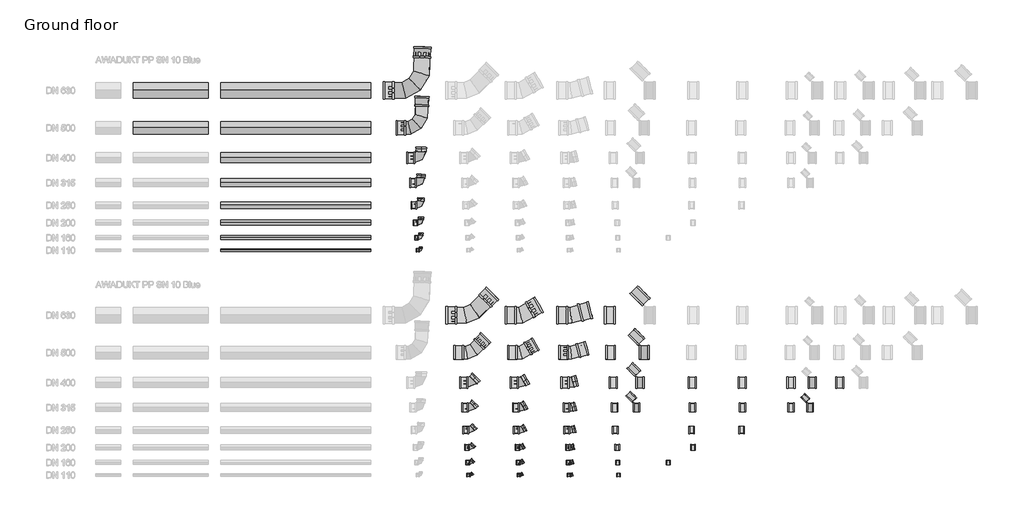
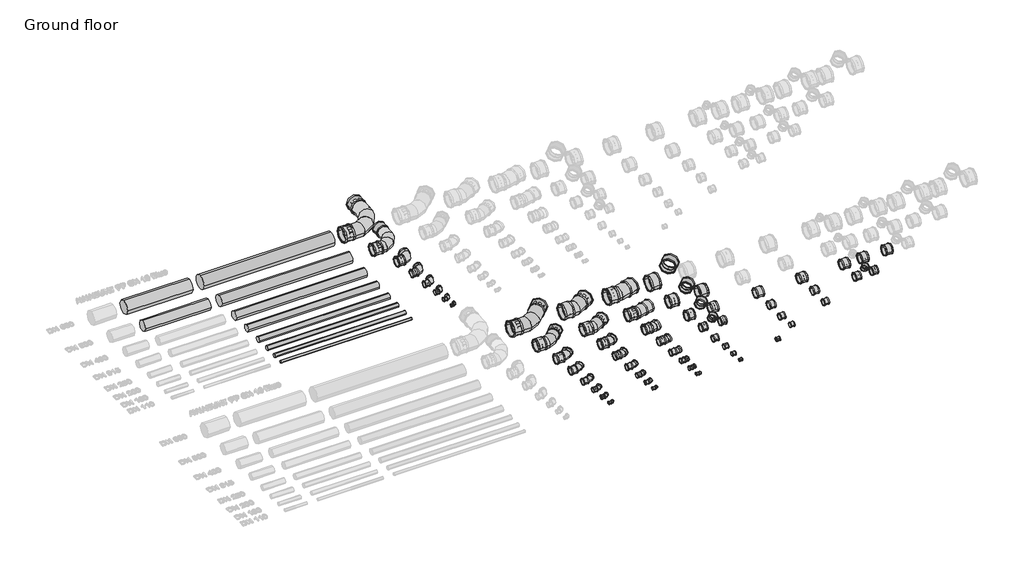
# One storey, part 2 of 14: 101 pipe fittings, 10 pipe segments.
"""IFC4 building model written with IfcOpenShell, lengths in millimetres."""

from ifc_helpers import new_model, si_unit, point, frame, frame_2d, origin, place, context, project, spatial, circle_curve, trimmed, segment, composite_curve, outline, extrude, transform, mapped, element, save
from components import pipe_fitting_e5a81f0f, pipe_fitting_366f8f33, pipe_fitting_0ebad727, pipe_fitting_3dc9645f, pipe_fitting_b5a722ff, pipe_fitting_a818c1c7, pipe_fitting_9bc79c39, pipe_fitting_2c23b5e5, blue_8a6e1d2f, blue_6a90c062, blue_68ca3d6e, blue_9c2ccc73, blue_e60a5e92, blue_be0330f0, blue_8c50e030, blue_66bd3a30, blue_cd4b49a2, blue_58710f0b, blue_3e8714aa, blue_1fd363ef, blue_119fea42, blue_49925300, blue_168d1bee, blue_045a93d3, blue_ad261573, blue_5f6e9122, blue_0398ec3c, blue_563d0c32, blue_fd0dfc69, blue_0a20ea5d, blue_b37b0867, blue_6a097fc3, blue_a2c14ece, blue_55e6ac91, blue_4c46b765, blue_4c692024, blue_db9835d6, blue_7109e013, orange_dd9ac047, orange_127dd680

model = new_model("IFC4")

# Units and contexts
model_context = context("Model", 3, world=origin())
ifc_project = project(units=[si_unit("LENGTHUNIT", "METRE", prefix="MILLI")], contexts=[model_context])

# Site, building, storey
site = spatial("IfcSite", under=ifc_project)
building = spatial("IfcBuilding", under=site)
storey = spatial("IfcBuildingStorey", under=building, Name="Ground floor", Elevation=0.0)

# Pipe fittings
placement = place(None, origin())
pipe_fitting_shape = pipe_fitting_e5a81f0f(model_context)
element("IfcPipeFitting", 1, ObjectType="AWADUKT PP Union DSM : Orange No PID", at=placement, inside=storey, context=model_context, shape_type="MappedRepresentation", body=[
    mapped(pipe_fitting_shape, transform((30677.0, 11700.0, 0.0), x_axis=(1.0, 0.0, 0.0), y_axis=(0.0, 1.0, 0.0), z_axis=(0.0, 0.0, 1.0))),
])
pipe_fitting_2_shape = pipe_fitting_366f8f33(model_context)
element("IfcPipeFitting", 2, ObjectType="AWADUKT PP Union DSM : Blue No PID", at=placement, inside=storey, context=model_context, shape_type="MappedRepresentation", body=[
    mapped(pipe_fitting_2_shape, transform((33709.9352083, 7109.9352083, 0.0), x_axis=(0.7071067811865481, 0.707106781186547, 0.0), y_axis=(-0.707106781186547, 0.7071067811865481, 0.0), z_axis=(0.0, 0.0, 1.0))),
])
element("IfcPipeFitting", 3, ObjectType="AWADUKT PP Union DSM : Blue No PID", at=placement, inside=storey, context=model_context, shape_type="MappedRepresentation", body=[
    mapped(pipe_fitting_2_shape, transform((32220.0, 6400.0, 0.0), x_axis=(1.0, 0.0, 0.0), y_axis=(0.0, 1.0, 0.0), z_axis=(0.0, 0.0, 1.0))),
])
element("IfcPipeFitting", 4, ObjectType="AWADUKT PP Union DSM : Blue No PID", at=placement, inside=storey, context=model_context, shape_type="MappedRepresentation", body=[
    mapped(pipe_fitting_2_shape, transform((35534.3376741, 6708.5, 0.0), x_axis=(0.8660254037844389, 0.49999999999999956, 0.0), y_axis=(-0.49999999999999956, 0.8660254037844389, 0.0), z_axis=(0.0, 0.0, 1.0))),
])
element("IfcPipeFitting", 5, ObjectType="AWADUKT PP Union DSM : Blue No PID", at=placement, inside=storey, context=model_context, shape_type="MappedRepresentation", body=[
    mapped(pipe_fitting_2_shape, transform((34590.0, 6400.0, 0.0), x_axis=(1.0, 0.0, 0.0), y_axis=(0.0, 1.0, 0.0), z_axis=(0.0, 0.0, 1.0))),
])
element("IfcPipeFitting", 6, ObjectType="AWADUKT PP Union DSM : Blue No PID", at=placement, inside=storey, context=model_context, shape_type="MappedRepresentation", body=[
    mapped(pipe_fitting_2_shape, transform((37565.0666084, 6551.4091414, 0.0), x_axis=(0.9659258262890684, 0.2588190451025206, 0.0), y_axis=(-0.2588190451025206, 0.9659258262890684, 0.0), z_axis=(0.0, 0.0, 1.0))),
])
element("IfcPipeFitting", 7, ObjectType="AWADUKT PP Union DSM : Blue No PID", at=placement, inside=storey, context=model_context, shape_type="MappedRepresentation", body=[
    mapped(pipe_fitting_2_shape, transform((36648.0, 6400.0, 0.0), x_axis=(1.0, 0.0, 0.0), y_axis=(0.0, 1.0, 0.0), z_axis=(0.0, 0.0, 1.0))),
])
element("IfcPipeFitting", 8, ObjectType="AWADUKT PP Union DSM : Blue No PID", at=placement, inside=storey, context=model_context, shape_type="MappedRepresentation", body=[
    mapped(pipe_fitting_2_shape, transform((38559.0, 6400.0, 0.0), x_axis=(1.0, 0.0, 0.0), y_axis=(0.0, 1.0, 0.0), z_axis=(0.0, 0.0, 1.0))),
])
element("IfcPipeFitting", 9, ObjectType="AWADUKT PP Union DSM : Blue No PID", at=placement, inside=storey, context=model_context, shape_type="MappedRepresentation", body=[
    mapped(pipe_fitting_2_shape, transform((39767.2108576, 7167.2108576, 0.0), x_axis=(0.7071067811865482, 0.7071067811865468, 0.0), y_axis=(-0.7071067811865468, 0.7071067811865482, 0.0), z_axis=(0.0, 0.0, 1.0))),
])
pipe_fitting_3_shape = pipe_fitting_0ebad727(model_context)
element("IfcPipeFitting", 10, ObjectType="AWADUKT PP Union DSM : Blue No PID", at=placement, inside=storey, context=model_context, shape_type="MappedRepresentation", body=[
    mapped(pipe_fitting_3_shape, transform((32909.0, 0.0, 0.0), x_axis=(1.0, 0.0, 0.0), y_axis=(0.0, 1.0, 0.0), z_axis=(0.0, 0.0, 1.0))),
])
element("IfcPipeFitting", 11, ObjectType="AWADUKT PP Union DSM : Blue No PID", at=placement, inside=storey, context=model_context, shape_type="MappedRepresentation", body=[
    mapped(pipe_fitting_3_shape, transform((34918.0, 0.0, 0.0), x_axis=(1.0, 0.0, 0.0), y_axis=(0.0, 1.0, 0.0), z_axis=(0.0, 0.0, 1.0))),
])
element("IfcPipeFitting", 12, ObjectType="AWADUKT PP Union DSM : Blue No PID", at=placement, inside=storey, context=model_context, shape_type="MappedRepresentation", body=[
    mapped(pipe_fitting_3_shape, transform((36927.0, 0.0, 0.0), x_axis=(1.0, 0.0, 0.0), y_axis=(0.0, 1.0, 0.0), z_axis=(0.0, 0.0, 1.0))),
])
element("IfcPipeFitting", 13, ObjectType="AWADUKT PP Union DSM : Blue No PID", at=placement, inside=storey, context=model_context, shape_type="MappedRepresentation", body=[
    mapped(pipe_fitting_3_shape, transform((38908.0, 0.0, 0.0), x_axis=(1.0, 0.0, 0.0), y_axis=(0.0, 1.0, 0.0), z_axis=(0.0, 0.0, 1.0))),
])
pipe_fitting_4_shape = pipe_fitting_3dc9645f(model_context)
element("IfcPipeFitting", 14, ObjectType="AWADUKT PP Union DSM : Blue No PID", at=placement, inside=storey, context=model_context, shape_type="MappedRepresentation", body=[
    mapped(pipe_fitting_4_shape, transform((32877.0, 500.0, 0.0), x_axis=(1.0, 0.0, 0.0), y_axis=(0.0, 1.0, 0.0), z_axis=(0.0, 0.0, 1.0))),
])
element("IfcPipeFitting", 15, ObjectType="AWADUKT PP Union DSM : Blue No PID", at=placement, inside=storey, context=model_context, shape_type="MappedRepresentation", body=[
    mapped(pipe_fitting_4_shape, transform((34890.0, 500.0, 0.0), x_axis=(1.0, 0.0, 0.0), y_axis=(0.0, 1.0, 0.0), z_axis=(0.0, 0.0, 1.0))),
])
element("IfcPipeFitting", 16, ObjectType="AWADUKT PP Union DSM : Blue No PID", at=placement, inside=storey, context=model_context, shape_type="MappedRepresentation", body=[
    mapped(pipe_fitting_4_shape, transform((36902.0, 500.0, 0.0), x_axis=(1.0, 0.0, 0.0), y_axis=(0.0, 1.0, 0.0), z_axis=(0.0, 0.0, 1.0))),
])
element("IfcPipeFitting", 17, ObjectType="AWADUKT PP Union DSM : Blue No PID", at=placement, inside=storey, context=model_context, shape_type="MappedRepresentation", body=[
    mapped(pipe_fitting_4_shape, transform((38872.0, 500.0, 0.0), x_axis=(1.0, 0.0, 0.0), y_axis=(0.0, 1.0, 0.0), z_axis=(0.0, 0.0, 1.0))),
])
element("IfcPipeFitting", 18, ObjectType="AWADUKT PP Union DSM : Blue No PID", at=placement, inside=storey, context=model_context, shape_type="MappedRepresentation", body=[
    mapped(pipe_fitting_4_shape, transform((40905.0, 500.0, 0.0), x_axis=(1.0, 0.0, 0.0), y_axis=(0.0, 1.0, 0.0), z_axis=(0.0, 0.0, 1.0))),
])
pipe_fitting_5_shape = pipe_fitting_b5a722ff(model_context)
element("IfcPipeFitting", 19, ObjectType="AWADUKT PP Union DSM : Blue No PID", at=placement, inside=storey, context=model_context, shape_type="MappedRepresentation", body=[
    mapped(pipe_fitting_5_shape, transform((32847.5, 1100.0, 0.0), x_axis=(1.0, 0.0, 0.0), y_axis=(0.0, 1.0, 0.0), z_axis=(0.0, 0.0, 1.0))),
])
element("IfcPipeFitting", 20, ObjectType="AWADUKT PP Union DSM : Blue No PID", at=placement, inside=storey, context=model_context, shape_type="MappedRepresentation", body=[
    mapped(pipe_fitting_5_shape, transform((34863.5, 1100.0, 0.0), x_axis=(1.0, 0.0, 0.0), y_axis=(0.0, 1.0, 0.0), z_axis=(0.0, 0.0, 1.0))),
])
element("IfcPipeFitting", 21, ObjectType="AWADUKT PP Union DSM : Blue No PID", at=placement, inside=storey, context=model_context, shape_type="MappedRepresentation", body=[
    mapped(pipe_fitting_5_shape, transform((36878.5, 1100.0, 0.0), x_axis=(1.0, 0.0, 0.0), y_axis=(0.0, 1.0, 0.0), z_axis=(0.0, 0.0, 1.0))),
])
element("IfcPipeFitting", 22, ObjectType="AWADUKT PP Union DSM : Blue No PID", at=placement, inside=storey, context=model_context, shape_type="MappedRepresentation", body=[
    mapped(pipe_fitting_5_shape, transform((38855.1, 1100.0, 0.0), x_axis=(1.0, 0.0, 0.0), y_axis=(0.0, 1.0, 0.0), z_axis=(0.0, 0.0, 1.0))),
])
element("IfcPipeFitting", 23, ObjectType="AWADUKT PP Union DSM : Blue No PID", at=placement, inside=storey, context=model_context, shape_type="MappedRepresentation", body=[
    mapped(pipe_fitting_5_shape, transform((41884.4, 1100.0, 0.0), x_axis=(1.0, 0.0, 0.0), y_axis=(0.0, 1.0, 0.0), z_axis=(0.0, 0.0, 1.0))),
])
pipe_fitting_6_shape = pipe_fitting_a818c1c7(model_context)
element("IfcPipeFitting", 24, ObjectType="AWADUKT PP Union DSM : Blue No PID", at=placement, inside=storey, context=model_context, shape_type="MappedRepresentation", body=[
    mapped(pipe_fitting_6_shape, transform((32797.0, 1800.0, 0.0), x_axis=(1.0, 0.0, 0.0), y_axis=(0.0, 1.0, 0.0), z_axis=(0.0, 0.0, 1.0))),
])
element("IfcPipeFitting", 25, ObjectType="AWADUKT PP Union DSM : Blue No PID", at=placement, inside=storey, context=model_context, shape_type="MappedRepresentation", body=[
    mapped(pipe_fitting_6_shape, transform((34817.0, 1800.0, 0.0), x_axis=(1.0, 0.0, 0.0), y_axis=(0.0, 1.0, 0.0), z_axis=(0.0, 0.0, 1.0))),
])
element("IfcPipeFitting", 26, ObjectType="AWADUKT PP Union DSM : Blue No PID", at=placement, inside=storey, context=model_context, shape_type="MappedRepresentation", body=[
    mapped(pipe_fitting_6_shape, transform((36835.0, 1800.0, 0.0), x_axis=(1.0, 0.0, 0.0), y_axis=(0.0, 1.0, 0.0), z_axis=(0.0, 0.0, 1.0))),
])
element("IfcPipeFitting", 27, ObjectType="AWADUKT PP Union DSM : Blue No PID", at=placement, inside=storey, context=model_context, shape_type="MappedRepresentation", body=[
    mapped(pipe_fitting_6_shape, transform((38777.0, 1800.0, 0.0), x_axis=(1.0, 0.0, 0.0), y_axis=(0.0, 1.0, 0.0), z_axis=(0.0, 0.0, 1.0))),
])
element("IfcPipeFitting", 28, ObjectType="AWADUKT PP Union DSM : Blue No PID", at=placement, inside=storey, context=model_context, shape_type="MappedRepresentation", body=[
    mapped(pipe_fitting_6_shape, transform((41832.0, 1800.0, 0.0), x_axis=(1.0, 0.0, 0.0), y_axis=(0.0, 1.0, 0.0), z_axis=(0.0, 0.0, 1.0))),
])
element("IfcPipeFitting", 29, ObjectType="AWADUKT PP Union DSM : Blue No PID", at=placement, inside=storey, context=model_context, shape_type="MappedRepresentation", body=[
    mapped(pipe_fitting_6_shape, transform((43832.0, 1800.0, 0.0), x_axis=(1.0, 0.0, 0.0), y_axis=(0.0, 1.0, 0.0), z_axis=(0.0, 0.0, 1.0))),
])
element("IfcPipeFitting", 30, ObjectType="AWADUKT PP Union DSM : Blue No PID", at=placement, inside=storey, context=model_context, shape_type="MappedRepresentation", body=[
    mapped(pipe_fitting_6_shape, transform((46381.8376618, 3081.8376618, 0.0), x_axis=(0.7071067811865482, 0.7071067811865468, 0.0), y_axis=(-0.7071067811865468, 0.7071067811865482, 0.0), z_axis=(0.0, 0.0, 1.0))),
])
element("IfcPipeFitting", 31, ObjectType="AWADUKT PP Union DSM : Blue No PID", at=placement, inside=storey, context=model_context, shape_type="MappedRepresentation", body=[
    mapped(pipe_fitting_shape, transform((32771.0, 2700.0, 0.0), x_axis=(1.0, 0.0, 0.0), y_axis=(0.0, 1.0, 0.0), z_axis=(0.0, 0.0, 1.0))),
])
element("IfcPipeFitting", 32, ObjectType="AWADUKT PP Union DSM : Blue No PID", at=placement, inside=storey, context=model_context, shape_type="MappedRepresentation", body=[
    mapped(pipe_fitting_shape, transform((34796.0, 2700.0, 0.0), x_axis=(1.0, 0.0, 0.0), y_axis=(0.0, 1.0, 0.0), z_axis=(0.0, 0.0, 1.0))),
])
element("IfcPipeFitting", 33, ObjectType="AWADUKT PP Union DSM : Blue No PID", at=placement, inside=storey, context=model_context, shape_type="MappedRepresentation", body=[
    mapped(pipe_fitting_shape, transform((36820.0, 2700.0, 0.0), x_axis=(1.0, 0.0, 0.0), y_axis=(0.0, 1.0, 0.0), z_axis=(0.0, 0.0, 1.0))),
])
element("IfcPipeFitting", 34, ObjectType="AWADUKT PP Union DSM : Blue No PID", at=placement, inside=storey, context=model_context, shape_type="MappedRepresentation", body=[
    mapped(pipe_fitting_shape, transform((38753.0, 2700.0, 0.0), x_axis=(1.0, 0.0, 0.0), y_axis=(0.0, 1.0, 0.0), z_axis=(0.0, 0.0, 1.0))),
])
element("IfcPipeFitting", 35, ObjectType="AWADUKT PP Union DSM : Blue No PID", at=placement, inside=storey, context=model_context, shape_type="MappedRepresentation", body=[
    mapped(pipe_fitting_shape, transform((39629.0, 2700.0, 0.0), x_axis=(-1.0, 0.0, 0.0), y_axis=(0.0, -1.0, 0.0), z_axis=(0.0, 0.0, 1.0))),
])
element("IfcPipeFitting", 36, ObjectType="AWADUKT PP Union DSM : Blue No PID", at=placement, inside=storey, context=model_context, shape_type="MappedRepresentation", body=[
    mapped(pipe_fitting_shape, transform((39420.7285348, 3120.7285348, 0.0), x_axis=(0.7071067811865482, 0.7071067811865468, 0.0), y_axis=(-0.7071067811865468, 0.7071067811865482, 0.0), z_axis=(0.0, 0.0, 1.0))),
])
element("IfcPipeFitting", 37, ObjectType="AWADUKT PP Union DSM : Blue No PID", at=placement, inside=storey, context=model_context, shape_type="MappedRepresentation", body=[
    mapped(pipe_fitting_shape, transform((41863.0, 2700.0, 0.0), x_axis=(1.0, 0.0, 0.0), y_axis=(0.0, 1.0, 0.0), z_axis=(0.0, 0.0, 1.0))),
])
element("IfcPipeFitting", 38, ObjectType="AWADUKT PP Union DSM : Blue No PID", at=placement, inside=storey, context=model_context, shape_type="MappedRepresentation", body=[
    mapped(pipe_fitting_shape, transform((43859.0, 2700.0, 0.0), x_axis=(1.0, 0.0, 0.0), y_axis=(0.0, 1.0, 0.0), z_axis=(0.0, 0.0, 1.0))),
])
element("IfcPipeFitting", 39, ObjectType="AWADUKT PP Union DSM : Blue No PID", at=placement, inside=storey, context=model_context, shape_type="MappedRepresentation", body=[
    mapped(pipe_fitting_shape, transform((45799.0, 2700.0, 0.0), x_axis=(1.0, 0.0, 0.0), y_axis=(0.0, 1.0, 0.0), z_axis=(0.0, 0.0, 1.0))),
])
element("IfcPipeFitting", 40, ObjectType="AWADUKT PP Union DSM : Blue No PID", at=placement, inside=storey, context=model_context, shape_type="MappedRepresentation", body=[
    mapped(pipe_fitting_shape, transform((46582.0, 2700.0, 0.0), x_axis=(-1.0, 0.0, 0.0), y_axis=(0.0, -1.0, 0.0), z_axis=(0.0, 0.0, 1.0))),
])
pipe_fitting_7_shape = pipe_fitting_9bc79c39(model_context)
element("IfcPipeFitting", 41, ObjectType="AWADUKT PP Union DSM : Blue No PID", at=placement, inside=storey, context=model_context, shape_type="MappedRepresentation", body=[
    mapped(pipe_fitting_7_shape, transform((32709.0, 3700.0, 0.0), x_axis=(1.0, 0.0, 0.0), y_axis=(0.0, 1.0, 0.0), z_axis=(0.0, 0.0, 1.0))),
])
element("IfcPipeFitting", 42, ObjectType="AWADUKT PP Union DSM : Blue No PID", at=placement, inside=storey, context=model_context, shape_type="MappedRepresentation", body=[
    mapped(pipe_fitting_7_shape, transform((34738.0, 3700.0, 0.0), x_axis=(1.0, 0.0, 0.0), y_axis=(0.0, 1.0, 0.0), z_axis=(0.0, 0.0, 1.0))),
])
element("IfcPipeFitting", 43, ObjectType="AWADUKT PP Union DSM : Blue No PID", at=placement, inside=storey, context=model_context, shape_type="MappedRepresentation", body=[
    mapped(pipe_fitting_7_shape, transform((36764.4, 3700.0, 0.0), x_axis=(1.0, 0.0, 0.0), y_axis=(0.0, 1.0, 0.0), z_axis=(0.0, 0.0, 1.0))),
])
element("IfcPipeFitting", 44, ObjectType="AWADUKT PP Union DSM : Blue No PID", at=placement, inside=storey, context=model_context, shape_type="MappedRepresentation", body=[
    mapped(pipe_fitting_7_shape, transform((38698.0, 3700.0, 0.0), x_axis=(1.0, 0.0, 0.0), y_axis=(0.0, 1.0, 0.0), z_axis=(0.0, 0.0, 1.0))),
])
element("IfcPipeFitting", 45, ObjectType="AWADUKT PP Union DSM : Blue No PID", at=placement, inside=storey, context=model_context, shape_type="MappedRepresentation", body=[
    mapped(pipe_fitting_7_shape, transform((39777.0, 3700.0, 0.0), x_axis=(-1.0, 0.0, 0.0), y_axis=(0.0, -1.0, 0.0), z_axis=(0.0, 0.0, 1.0))),
])
element("IfcPipeFitting", 46, ObjectType="AWADUKT PP Union DSM : Blue No PID", at=placement, inside=storey, context=model_context, shape_type="MappedRepresentation", body=[
    mapped(pipe_fitting_7_shape, transform((39519.7234842, 4219.7234842, 0.0), x_axis=(0.7071067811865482, 0.7071067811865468, 0.0), y_axis=(-0.7071067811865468, 0.7071067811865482, 0.0), z_axis=(0.0, 0.0, 1.0))),
])
element("IfcPipeFitting", 47, ObjectType="AWADUKT PP Union DSM : Blue No PID", at=placement, inside=storey, context=model_context, shape_type="MappedRepresentation", body=[
    mapped(pipe_fitting_7_shape, transform((41854.0, 3700.0, 0.0), x_axis=(1.0, 0.0, 0.0), y_axis=(0.0, 1.0, 0.0), z_axis=(0.0, 0.0, 1.0))),
])
element("IfcPipeFitting", 48, ObjectType="AWADUKT PP Union DSM : Blue No PID", at=placement, inside=storey, context=model_context, shape_type="MappedRepresentation", body=[
    mapped(pipe_fitting_7_shape, transform((43854.0, 3700.0, 0.0), x_axis=(1.0, 0.0, 0.0), y_axis=(0.0, 1.0, 0.0), z_axis=(0.0, 0.0, 1.0))),
])
element("IfcPipeFitting", 49, ObjectType="AWADUKT PP Union DSM : Blue No PID", at=placement, inside=storey, context=model_context, shape_type="MappedRepresentation", body=[
    mapped(pipe_fitting_7_shape, transform((45805.0, 3700.0, 0.0), x_axis=(1.0, 0.0, 0.0), y_axis=(0.0, 1.0, 0.0), z_axis=(0.0, 0.0, 1.0))),
])
element("IfcPipeFitting", 50, ObjectType="AWADUKT PP Union DSM : Blue No PID", at=placement, inside=storey, context=model_context, shape_type="MappedRepresentation", body=[
    mapped(pipe_fitting_7_shape, transform((46664.0, 3700.0, 0.0), x_axis=(-1.0, 0.0, 0.0), y_axis=(0.0, -1.0, 0.0), z_axis=(0.0, 0.0, 1.0))),
])
element("IfcPipeFitting", 51, ObjectType="AWADUKT PP Union DSM : Blue No PID", at=placement, inside=storey, context=model_context, shape_type="MappedRepresentation", body=[
    mapped(pipe_fitting_7_shape, transform((47760.0, 3700.0, 0.0), x_axis=(1.0, 0.0, 0.0), y_axis=(0.0, 1.0, 0.0), z_axis=(0.0, 0.0, 1.0))),
])
pipe_fitting_8_shape = pipe_fitting_2c23b5e5(model_context)
element("IfcPipeFitting", 52, ObjectType="AWADUKT PP Union DSM : Blue No PID", at=placement, inside=storey, context=model_context, shape_type="MappedRepresentation", body=[
    mapped(pipe_fitting_8_shape, transform((33458.2051942, 5358.2051942, 0.0), x_axis=(0.7071067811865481, 0.707106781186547, 0.0), y_axis=(-0.707106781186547, 0.7071067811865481, 0.0), z_axis=(0.0, 0.0, 1.0))),
])
element("IfcPipeFitting", 53, ObjectType="AWADUKT PP Union DSM : Blue No PID", at=placement, inside=storey, context=model_context, shape_type="MappedRepresentation", body=[
    mapped(pipe_fitting_8_shape, transform((32509.0, 4900.0, 0.0), x_axis=(1.0, 0.0, 0.0), y_axis=(0.0, 1.0, 0.0), z_axis=(0.0, 0.0, 1.0))),
])
element("IfcPipeFitting", 54, ObjectType="AWADUKT PP Union DSM : Blue No PID", at=placement, inside=storey, context=model_context, shape_type="MappedRepresentation", body=[
    mapped(pipe_fitting_8_shape, transform((35429.5486003, 5148.0, 0.0), x_axis=(0.8660254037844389, 0.49999999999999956, 0.0), y_axis=(-0.49999999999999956, 0.8660254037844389, 0.0), z_axis=(0.0, 0.0, 1.0))),
])
element("IfcPipeFitting", 55, ObjectType="AWADUKT PP Union DSM : Blue No PID", at=placement, inside=storey, context=model_context, shape_type="MappedRepresentation", body=[
    mapped(pipe_fitting_8_shape, transform((34659.0, 4900.0, 0.0), x_axis=(1.0, 0.0, 0.0), y_axis=(0.0, 1.0, 0.0), z_axis=(0.0, 0.0, 1.0))),
])
element("IfcPipeFitting", 56, ObjectType="AWADUKT PP Union DSM : Blue No PID", at=placement, inside=storey, context=model_context, shape_type="MappedRepresentation", body=[
    mapped(pipe_fitting_8_shape, transform((37458.8147675, 5022.9390464, 0.0), x_axis=(0.9659258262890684, 0.2588190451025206, 0.0), y_axis=(-0.2588190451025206, 0.9659258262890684, 0.0), z_axis=(0.0, 0.0, 1.0))),
])
element("IfcPipeFitting", 57, ObjectType="AWADUKT PP Union DSM : Blue No PID", at=placement, inside=storey, context=model_context, shape_type="MappedRepresentation", body=[
    mapped(pipe_fitting_8_shape, transform((36707.0, 4900.0, 0.0), x_axis=(1.0, 0.0, 0.0), y_axis=(0.0, 1.0, 0.0), z_axis=(0.0, 0.0, 1.0))),
])
element("IfcPipeFitting", 58, ObjectType="AWADUKT PP Union DSM : Blue No PID", at=placement, inside=storey, context=model_context, shape_type="MappedRepresentation", body=[
    mapped(pipe_fitting_8_shape, transform((38585.0, 4900.0, 0.0), x_axis=(1.0, 0.0, 0.0), y_axis=(0.0, 1.0, 0.0), z_axis=(0.0, 0.0, 1.0))),
])
element("IfcPipeFitting", 59, ObjectType="AWADUKT PP Union DSM : Blue No PID", at=placement, inside=storey, context=model_context, shape_type="MappedRepresentation", body=[
    mapped(pipe_fitting_8_shape, transform((39941.0, 4900.0, 0.0), x_axis=(-1.0, 0.0, 0.0), y_axis=(0.0, -1.0, 0.0), z_axis=(0.0, 0.0, 1.0))),
])
element("IfcPipeFitting", 60, ObjectType="AWADUKT PP Union DSM : Blue No PID", at=placement, inside=storey, context=model_context, shape_type="MappedRepresentation", body=[
    mapped(pipe_fitting_8_shape, transform((39625.7895014, 5525.7895014, 0.0), x_axis=(0.7071067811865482, 0.7071067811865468, 0.0), y_axis=(-0.7071067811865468, 0.7071067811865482, 0.0), z_axis=(0.0, 0.0, 1.0))),
])
element("IfcPipeFitting", 61, ObjectType="AWADUKT PP Union DSM : Orange No PID", at=placement, inside=storey, context=model_context, shape_type="MappedRepresentation", body=[
    mapped(pipe_fitting_3_shape, transform((30875.0, 9000.0, 0.0), x_axis=(1.0, 0.0, 0.0), y_axis=(0.0, 1.0, 0.0), z_axis=(0.0, 0.0, 1.0))),
])
element("IfcPipeFitting", 62, ObjectType="AWADUKT PP Union DSM : Orange No PID", at=placement, inside=storey, context=model_context, shape_type="MappedRepresentation", body=[
    mapped(pipe_fitting_4_shape, transform((30826.0, 9500.0, 0.0), x_axis=(1.0, 0.0, 0.0), y_axis=(0.0, 1.0, 0.0), z_axis=(0.0, 0.0, 1.0))),
])
element("IfcPipeFitting", 63, ObjectType="AWADUKT PP Union DSM : Orange No PID", at=placement, inside=storey, context=model_context, shape_type="MappedRepresentation", body=[
    mapped(pipe_fitting_5_shape, transform((30788.5, 10100.0, 0.0), x_axis=(1.0, 0.0, 0.0), y_axis=(0.0, 1.0, 0.0), z_axis=(0.0, 0.0, 1.0))),
])
element("IfcPipeFitting", 64, ObjectType="AWADUKT PP Union DSM : Orange No PID", at=placement, inside=storey, context=model_context, shape_type="MappedRepresentation", body=[
    mapped(pipe_fitting_6_shape, transform((30722.0, 10800.0, 0.0), x_axis=(1.0, 0.0, 0.0), y_axis=(0.0, 1.0, 0.0), z_axis=(0.0, 0.0, 1.0))),
])
element("IfcPipeFitting", 65, ObjectType="AWADUKT PP Union DSM : Orange No PID", at=placement, inside=storey, context=model_context, shape_type="MappedRepresentation", body=[
    mapped(pipe_fitting_7_shape, transform((30597.0, 12700.0, 0.0), x_axis=(1.0, 0.0, 0.0), y_axis=(0.0, 1.0, 0.0), z_axis=(0.0, 0.0, 1.0))),
])
element("IfcPipeFitting", 66, ObjectType="AWADUKT PP Union DSM : Orange No PID", at=placement, inside=storey, context=model_context, shape_type="MappedRepresentation", body=[
    mapped(pipe_fitting_8_shape, transform((31038.6957564, 14955.2907838, 0.0), x_axis=(0.036643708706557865, 0.9993283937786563, 0.0), y_axis=(-0.9993283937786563, 0.036643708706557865, 0.0), z_axis=(0.0, 0.0, 1.0))),
])
element("IfcPipeFitting", 67, ObjectType="AWADUKT PP Union DSM : Orange No PID", at=placement, inside=storey, context=model_context, shape_type="MappedRepresentation", body=[
    mapped(pipe_fitting_8_shape, transform((30198.0, 13900.0, 0.0), x_axis=(1.0, 0.0, 0.0), y_axis=(0.0, 1.0, 0.0), z_axis=(0.0, 0.0, 1.0))),
])
element("IfcPipeFitting", 68, ObjectType="AWADUKT PP Union DSM : Orange No PID", at=placement, inside=storey, context=model_context, shape_type="MappedRepresentation", body=[
    mapped(pipe_fitting_2_shape, transform((31055.6434717, 16917.480166, 0.0), x_axis=(0.036643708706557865, 0.9993283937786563, 0.0), y_axis=(-0.9993283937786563, 0.036643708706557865, 0.0), z_axis=(0.0, 0.0, 1.0))),
])
element("IfcPipeFitting", 69, ObjectType="AWADUKT PP Union DSM : Orange No PID", at=placement, inside=storey, context=model_context, shape_type="MappedRepresentation", body=[
    mapped(pipe_fitting_2_shape, transform((29705.5, 15400.0, 0.0), x_axis=(1.0, 0.0, 0.0), y_axis=(0.0, 1.0, 0.0), z_axis=(0.0, 0.0, 1.0))),
])
blue_shape = blue_8a6e1d2f(model_context)
element("IfcPipeFitting", 70, ObjectType="AWADUKT PP SN10 Bend : Blue", at=placement, inside=storey, context=model_context, shape_type="MappedRepresentation", body=[
    mapped(blue_shape, transform((33000.0, 3700.0, 0.0), x_axis=(1.0, 0.0, 0.0), y_axis=(0.0, 1.0, 0.0), z_axis=(0.0, 0.0, 1.0))),
])
blue_2_shape = blue_6a90c062(model_context)
element("IfcPipeFitting", 71, ObjectType="AWADUKT PP SN10 Bend : Blue", at=placement, inside=storey, context=model_context, shape_type="MappedRepresentation", body=[
    mapped(blue_2_shape, transform((33000.0, 0.0, 0.0), x_axis=(1.0, 0.0, 0.0), y_axis=(0.0, 1.0, 0.0), z_axis=(0.0, 0.0, 1.0))),
])
blue_3_shape = blue_68ca3d6e(model_context)
element("IfcPipeFitting", 72, ObjectType="AWADUKT PP SN10 Bend : Blue", at=placement, inside=storey, context=model_context, shape_type="MappedRepresentation", body=[
    mapped(blue_3_shape, transform((33000.0, 500.0, 0.0), x_axis=(1.0, 0.0, 0.0), y_axis=(0.0, 1.0, 0.0), z_axis=(0.0, 0.0, 1.0))),
])
blue_4_shape = blue_9c2ccc73(model_context)
element("IfcPipeFitting", 73, ObjectType="AWADUKT PP SN10 Bend : Blue", at=placement, inside=storey, context=model_context, shape_type="MappedRepresentation", body=[
    mapped(blue_4_shape, transform((33000.0, 1100.0, 0.0), x_axis=(1.0, 0.0, 0.0), y_axis=(0.0, 1.0, 0.0), z_axis=(0.0, 0.0, 1.0))),
])
blue_5_shape = blue_e60a5e92(model_context)
element("IfcPipeFitting", 74, ObjectType="AWADUKT PP SN10 Bend : Blue", at=placement, inside=storey, context=model_context, shape_type="MappedRepresentation", body=[
    mapped(blue_5_shape, transform((33000.0, 1800.0, 0.0), x_axis=(1.0, 0.0, 0.0), y_axis=(0.0, 1.0, 0.0), z_axis=(0.0, 0.0, 1.0))),
])
blue_6_shape = blue_be0330f0(model_context)
element("IfcPipeFitting", 75, ObjectType="AWADUKT PP SN10 Bend : Blue", at=placement, inside=storey, context=model_context, shape_type="MappedRepresentation", body=[
    mapped(blue_6_shape, transform((33000.0, 2700.0, 0.0), x_axis=(1.0, 0.0, 0.0), y_axis=(0.0, 1.0, 0.0), z_axis=(0.0, 0.0, 1.0))),
])
blue_7_shape = blue_8c50e030(model_context)
element("IfcPipeFitting", 76, ObjectType="AWADUKT PP SN10 Bend : Blue", at=placement, inside=storey, context=model_context, shape_type="MappedRepresentation", body=[
    mapped(blue_7_shape, transform((35000.0, 0.0, 0.0), x_axis=(1.0, 0.0, 0.0), y_axis=(0.0, 1.0, 0.0), z_axis=(0.0, 0.0, 1.0))),
])
blue_8_shape = blue_66bd3a30(model_context)
element("IfcPipeFitting", 77, ObjectType="AWADUKT PP SN10 Bend : Blue", at=placement, inside=storey, context=model_context, shape_type="MappedRepresentation", body=[
    mapped(blue_8_shape, transform((35000.0, 500.0, 0.0), x_axis=(1.0, 0.0, 0.0), y_axis=(0.0, 1.0, 0.0), z_axis=(0.0, 0.0, 1.0))),
])
blue_9_shape = blue_cd4b49a2(model_context)
element("IfcPipeFitting", 78, ObjectType="AWADUKT PP SN10 Bend : Blue", at=placement, inside=storey, context=model_context, shape_type="MappedRepresentation", body=[
    mapped(blue_9_shape, transform((35000.0, 1100.0, 0.0), x_axis=(1.0, 0.0, 0.0), y_axis=(0.0, 1.0, 0.0), z_axis=(0.0, 0.0, 1.0))),
])
blue_10_shape = blue_58710f0b(model_context)
element("IfcPipeFitting", 79, ObjectType="AWADUKT PP SN10 Bend : Blue", at=placement, inside=storey, context=model_context, shape_type="MappedRepresentation", body=[
    mapped(blue_10_shape, transform((35000.0, 1800.0, 0.0), x_axis=(1.0, 0.0, 0.0), y_axis=(0.0, 1.0, 0.0), z_axis=(0.0, 0.0, 1.0))),
])
blue_11_shape = blue_3e8714aa(model_context)
element("IfcPipeFitting", 80, ObjectType="AWADUKT PP SN10 Bend : Blue", at=placement, inside=storey, context=model_context, shape_type="MappedRepresentation", body=[
    mapped(blue_11_shape, transform((35000.0, 2700.0, 0.0), x_axis=(1.0, 0.0, 0.0), y_axis=(0.0, 1.0, 0.0), z_axis=(0.0, 0.0, 1.0))),
])
blue_12_shape = blue_1fd363ef(model_context)
element("IfcPipeFitting", 81, ObjectType="AWADUKT PP SN10 Bend : Blue", at=placement, inside=storey, context=model_context, shape_type="MappedRepresentation", body=[
    mapped(blue_12_shape, transform((35000.0, 3700.0, 0.0), x_axis=(1.0, 0.0, 0.0), y_axis=(0.0, 1.0, 0.0), z_axis=(0.0, 0.0, 1.0))),
])
blue_13_shape = blue_119fea42(model_context)
element("IfcPipeFitting", 82, ObjectType="AWADUKT PP SN10 Bend : Blue", at=placement, inside=storey, context=model_context, shape_type="MappedRepresentation", body=[
    mapped(blue_13_shape, transform((37000.0, 0.0, 0.0), x_axis=(1.0, 0.0, 0.0), y_axis=(0.0, 1.0, 0.0), z_axis=(0.0, 0.0, 1.0))),
])
blue_14_shape = blue_49925300(model_context)
element("IfcPipeFitting", 83, ObjectType="AWADUKT PP SN10 Bend : Blue", at=placement, inside=storey, context=model_context, shape_type="MappedRepresentation", body=[
    mapped(blue_14_shape, transform((37000.0, 500.0, 0.0), x_axis=(1.0, 0.0, 0.0), y_axis=(0.0, 1.0, 0.0), z_axis=(0.0, 0.0, 1.0))),
])
blue_15_shape = blue_168d1bee(model_context)
element("IfcPipeFitting", 84, ObjectType="AWADUKT PP SN10 Bend : Blue", at=placement, inside=storey, context=model_context, shape_type="MappedRepresentation", body=[
    mapped(blue_15_shape, transform((37000.0, 1100.0, 0.0), x_axis=(1.0, 0.0, 0.0), y_axis=(0.0, 1.0, 0.0), z_axis=(0.0, 0.0, 1.0))),
])
blue_16_shape = blue_045a93d3(model_context)
element("IfcPipeFitting", 85, ObjectType="AWADUKT PP SN10 Bend : Blue", at=placement, inside=storey, context=model_context, shape_type="MappedRepresentation", body=[
    mapped(blue_16_shape, transform((37000.0, 1800.0, 0.0), x_axis=(1.0, 0.0, 0.0), y_axis=(0.0, 1.0, 0.0), z_axis=(0.0, 0.0, 1.0))),
])
blue_17_shape = blue_ad261573(model_context)
element("IfcPipeFitting", 86, ObjectType="AWADUKT PP SN10 Bend : Blue", at=placement, inside=storey, context=model_context, shape_type="MappedRepresentation", body=[
    mapped(blue_17_shape, transform((37000.0, 2700.0, 0.0), x_axis=(1.0, 0.0, 0.0), y_axis=(0.0, 1.0, 0.0), z_axis=(0.0, 0.0, 1.0))),
])
blue_18_shape = blue_5f6e9122(model_context)
element("IfcPipeFitting", 87, ObjectType="AWADUKT PP SN10 Bend : Blue", at=placement, inside=storey, context=model_context, shape_type="MappedRepresentation", body=[
    mapped(blue_18_shape, transform((37000.0, 3700.0, 0.0), x_axis=(1.0, 0.0, 0.0), y_axis=(0.0, 1.0, 0.0), z_axis=(0.0, 0.0, 1.0))),
])
blue_19_shape = blue_0398ec3c(model_context)
element("IfcPipeFitting", 88, ObjectType="AWADUKT PP SN10 SBend : Blue", at=placement, inside=storey, context=model_context, shape_type="MappedRepresentation", body=[
    mapped(blue_19_shape, transform((33000.0, 4900.0, 0.0), x_axis=(1.0, 0.0, 0.0), y_axis=(0.0, 1.0, 0.0), z_axis=(0.0, 0.0, 1.0))),
])
blue_20_shape = blue_563d0c32(model_context)
element("IfcPipeFitting", 89, ObjectType="AWADUKT PP SN10 SBend : Blue", at=placement, inside=storey, context=model_context, shape_type="MappedRepresentation", body=[
    mapped(blue_20_shape, transform((33000.0, 6400.0, 0.0), x_axis=(1.0, 0.0, 0.0), y_axis=(0.0, 1.0, 0.0), z_axis=(0.0, 0.0, 1.0))),
])
blue_21_shape = blue_fd0dfc69(model_context)
element("IfcPipeFitting", 90, ObjectType="AWADUKT PP SN10 SBend : Blue", at=placement, inside=storey, context=model_context, shape_type="MappedRepresentation", body=[
    mapped(blue_21_shape, transform((35000.0, 4900.0, 0.0), x_axis=(1.0, 0.0, 0.0), y_axis=(0.0, 1.0, 0.0), z_axis=(0.0, 0.0, 1.0))),
])
blue_22_shape = blue_0a20ea5d(model_context)
element("IfcPipeFitting", 91, ObjectType="AWADUKT PP SN10 SBend : Blue", at=placement, inside=storey, context=model_context, shape_type="MappedRepresentation", body=[
    mapped(blue_22_shape, transform((35000.0, 6400.0, 0.0), x_axis=(1.0, 0.0, 0.0), y_axis=(0.0, 1.0, 0.0), z_axis=(0.0, 0.0, 1.0))),
])
blue_23_shape = blue_b37b0867(model_context)
element("IfcPipeFitting", 92, ObjectType="AWADUKT PP SN10 SBend : Blue", at=placement, inside=storey, context=model_context, shape_type="MappedRepresentation", body=[
    mapped(blue_23_shape, transform((37000.0, 4900.0, 0.0), x_axis=(1.0, 0.0, 0.0), y_axis=(0.0, 1.0, 0.0), z_axis=(0.0, 0.0, 1.0))),
])
blue_24_shape = blue_6a097fc3(model_context)
element("IfcPipeFitting", 93, ObjectType="AWADUKT PP SN10 SBend : Blue", at=placement, inside=storey, context=model_context, shape_type="MappedRepresentation", body=[
    mapped(blue_24_shape, transform((37000.0, 6400.0, 0.0), x_axis=(1.0, 0.0, 0.0), y_axis=(0.0, 1.0, 0.0), z_axis=(0.0, 0.0, 1.0))),
])
blue_25_shape = blue_a2c14ece(model_context)
element("IfcPipeFitting", 94, ObjectType="AWADUKT PP SN10 Bend : Orange", at=placement, inside=storey, context=model_context, shape_type="MappedRepresentation", body=[
    mapped(blue_25_shape, transform((31000.0, 9000.0, 0.0), x_axis=(1.0, 0.0, 0.0), y_axis=(0.0, 1.0, 0.0), z_axis=(0.0, 0.0, 1.0))),
])
blue_26_shape = blue_55e6ac91(model_context)
element("IfcPipeFitting", 95, ObjectType="AWADUKT PP SN10 Bend : Orange", at=placement, inside=storey, context=model_context, shape_type="MappedRepresentation", body=[
    mapped(blue_26_shape, transform((31000.0, 9500.0, 0.0), x_axis=(1.0, 0.0, 0.0), y_axis=(0.0, 1.0, 0.0), z_axis=(0.0, 0.0, 1.0))),
])
blue_27_shape = blue_4c46b765(model_context)
element("IfcPipeFitting", 96, ObjectType="AWADUKT PP SN10 Bend : Orange", at=placement, inside=storey, context=model_context, shape_type="MappedRepresentation", body=[
    mapped(blue_27_shape, transform((31000.0, 10100.0, 0.0), x_axis=(1.0, 0.0, 0.0), y_axis=(0.0, 1.0, 0.0), z_axis=(0.0, 0.0, 1.0))),
])
blue_28_shape = blue_4c692024(model_context)
element("IfcPipeFitting", 97, ObjectType="AWADUKT PP SN10 Bend : Orange", at=placement, inside=storey, context=model_context, shape_type="MappedRepresentation", body=[
    mapped(blue_28_shape, transform((31000.0, 10800.0, 0.0), x_axis=(1.0, 0.0, 0.0), y_axis=(0.0, 1.0, 0.0), z_axis=(0.0, 0.0, 1.0))),
])
blue_29_shape = blue_db9835d6(model_context)
element("IfcPipeFitting", 98, ObjectType="AWADUKT PP SN10 Bend : Orange", at=placement, inside=storey, context=model_context, shape_type="MappedRepresentation", body=[
    mapped(blue_29_shape, transform((31000.0, 11700.0, 0.0), x_axis=(1.0, 0.0, 0.0), y_axis=(0.0, 1.0, 0.0), z_axis=(0.0, 0.0, 1.0))),
])
blue_30_shape = blue_7109e013(model_context)
element("IfcPipeFitting", 99, ObjectType="AWADUKT PP SN10 Bend : Orange", at=placement, inside=storey, context=model_context, shape_type="MappedRepresentation", body=[
    mapped(blue_30_shape, transform((31000.0, 12700.0, 0.0), x_axis=(1.0, 0.0, 0.0), y_axis=(0.0, 1.0, 0.0), z_axis=(0.0, 0.0, 1.0))),
])
orange_shape = orange_dd9ac047(model_context)
element("IfcPipeFitting", 100, ObjectType="AWADUKT PP SN10 SBend : Orange", at=placement, inside=storey, context=model_context, shape_type="MappedRepresentation", body=[
    mapped(orange_shape, transform((31000.0, 13900.0, 0.0), x_axis=(1.0, 0.0, 0.0), y_axis=(0.0, 1.0, 0.0), z_axis=(0.0, 0.0, 1.0))),
])
orange_2_shape = orange_127dd680(model_context)
element("IfcPipeFitting", 101, ObjectType="AWADUKT PP SN10 SBend : Orange", at=placement, inside=storey, context=model_context, shape_type="MappedRepresentation", body=[
    mapped(orange_2_shape, transform((31000.0, 15400.0, 0.0), x_axis=(1.0, 0.0, 0.0), y_axis=(0.0, 1.0, 0.0), z_axis=(0.0, 0.0, 1.0))),
])

# Pipe segments
element("IfcPipeSegment", 102, ObjectType="AWADUKT PP SN10", at=placement, inside=storey, context=model_context, shape_type="SweptSolid", body=[
    extrude(outline(composite_curve([segment(trimmed(circle_curve(frame_2d((9000.0, 0.0)), 55.0), [point((8945.0, 0.0))], [point((9000.0, 55.0))], False, "CARTESIAN"), True, "CONTINUOUS"), segment(trimmed(circle_curve(frame_2d((9000.0, 0.0)), 55.0), [point((9000.0, 55.0))], [point((9055.0, 0.0))], False, "CARTESIAN"), True, "CONTINUOUS"), segment(trimmed(circle_curve(frame_2d((9000.0, 0.0)), 55.0), [point((9055.0, 0.0))], [point((9000.0, -55.0))], False, "CARTESIAN"), True, "CONTINUOUS"), segment(trimmed(circle_curve(frame_2d((9000.0, 0.0)), 55.0), [point((9000.0, -55.0))], [point((8945.0, 0.0))], False, "CARTESIAN"), True, "CONTINUOUS")], self_intersect=False)), frame((23000.0, 0.0, 0.0), z_axis=(1.0, 0.0, 0.0), x_axis=(0.0, 1.0, 0.0)), (0.0, 0.0, 1.0), 6000.0),
])
element("IfcPipeSegment", 103, ObjectType="AWADUKT PP SN10", at=placement, inside=storey, context=model_context, shape_type="SweptSolid", body=[
    extrude(outline(composite_curve([segment(trimmed(circle_curve(frame_2d((9500.0, 0.0)), 80.0), [point((9420.0, 0.0))], [point((9500.0, 80.0))], False, "CARTESIAN"), True, "CONTINUOUS"), segment(trimmed(circle_curve(frame_2d((9500.0, 0.0)), 80.0), [point((9500.0, 80.0))], [point((9580.0, 0.0))], False, "CARTESIAN"), True, "CONTINUOUS"), segment(trimmed(circle_curve(frame_2d((9500.0, 0.0)), 80.0), [point((9580.0, 0.0))], [point((9500.0, -80.0))], False, "CARTESIAN"), True, "CONTINUOUS"), segment(trimmed(circle_curve(frame_2d((9500.0, 0.0)), 80.0), [point((9500.0, -80.0))], [point((9420.0, 0.0))], False, "CARTESIAN"), True, "CONTINUOUS")], self_intersect=False)), frame((23000.0, 0.0, 0.0), z_axis=(1.0, 0.0, 0.0), x_axis=(0.0, 1.0, 0.0)), (0.0, 0.0, 1.0), 6000.0),
])
element("IfcPipeSegment", 104, ObjectType="AWADUKT PP SN10", at=placement, inside=storey, context=model_context, shape_type="SweptSolid", body=[
    extrude(outline(composite_curve([segment(trimmed(circle_curve(frame_2d((10100.0, 0.0)), 100.0), [point((10000.0, 0.0))], [point((10100.0, 100.0))], False, "CARTESIAN"), True, "CONTINUOUS"), segment(trimmed(circle_curve(frame_2d((10100.0, 0.0)), 100.0), [point((10100.0, 100.0))], [point((10200.0, 0.0))], False, "CARTESIAN"), True, "CONTINUOUS"), segment(trimmed(circle_curve(frame_2d((10100.0, 0.0)), 100.0), [point((10200.0, 0.0))], [point((10100.0, -100.0))], False, "CARTESIAN"), True, "CONTINUOUS"), segment(trimmed(circle_curve(frame_2d((10100.0, 0.0)), 100.0), [point((10100.0, -100.0))], [point((10000.0, 0.0))], False, "CARTESIAN"), True, "CONTINUOUS")], self_intersect=False)), frame((23000.0, 0.0, 0.0), z_axis=(1.0, 0.0, 0.0), x_axis=(0.0, 1.0, 0.0)), (0.0, 0.0, 1.0), 6000.0),
])
element("IfcPipeSegment", 105, ObjectType="AWADUKT PP SN10", at=placement, inside=storey, context=model_context, shape_type="SweptSolid", body=[
    extrude(outline(composite_curve([segment(trimmed(circle_curve(frame_2d((10800.0, 0.0)), 125.0), [point((10675.0, 0.0))], [point((10800.0, 125.0))], False, "CARTESIAN"), True, "CONTINUOUS"), segment(trimmed(circle_curve(frame_2d((10800.0, 0.0)), 125.0), [point((10800.0, 125.0))], [point((10925.0, 0.0))], False, "CARTESIAN"), True, "CONTINUOUS"), segment(trimmed(circle_curve(frame_2d((10800.0, 0.0)), 125.0), [point((10925.0, 0.0))], [point((10800.0, -125.0))], False, "CARTESIAN"), True, "CONTINUOUS"), segment(trimmed(circle_curve(frame_2d((10800.0, 0.0)), 125.0), [point((10800.0, -125.0))], [point((10675.0, 0.0))], False, "CARTESIAN"), True, "CONTINUOUS")], self_intersect=False)), frame((23000.0, 0.0, 0.0), z_axis=(1.0, 0.0, 0.0), x_axis=(0.0, 1.0, 0.0)), (0.0, 0.0, 1.0), 6000.0),
])
element("IfcPipeSegment", 106, ObjectType="AWADUKT PP SN10", at=placement, inside=storey, context=model_context, shape_type="SweptSolid", body=[
    extrude(outline(composite_curve([segment(trimmed(circle_curve(frame_2d((11700.0, 0.0)), 157.5), [point((11542.5, 0.0))], [point((11700.0, 157.5))], False, "CARTESIAN"), True, "CONTINUOUS"), segment(trimmed(circle_curve(frame_2d((11700.0, 0.0)), 157.5), [point((11700.0, 157.5))], [point((11857.5, 0.0))], False, "CARTESIAN"), True, "CONTINUOUS"), segment(trimmed(circle_curve(frame_2d((11700.0, 0.0)), 157.5), [point((11857.5, 0.0))], [point((11700.0, -157.5))], False, "CARTESIAN"), True, "CONTINUOUS"), segment(trimmed(circle_curve(frame_2d((11700.0, 0.0)), 157.5), [point((11700.0, -157.5))], [point((11542.5, 0.0))], False, "CARTESIAN"), True, "CONTINUOUS")], self_intersect=False)), frame((23000.0, 0.0, 0.0), z_axis=(1.0, 0.0, 0.0), x_axis=(0.0, 1.0, 0.0)), (0.0, 0.0, 1.0), 6000.0),
])
element("IfcPipeSegment", 107, ObjectType="AWADUKT PP SN10", at=placement, inside=storey, context=model_context, shape_type="SweptSolid", body=[
    extrude(outline(composite_curve([segment(trimmed(circle_curve(frame_2d((12700.0, 0.0)), 200.0), [point((12500.0, 0.0))], [point((12700.0, 200.0))], False, "CARTESIAN"), True, "CONTINUOUS"), segment(trimmed(circle_curve(frame_2d((12700.0, 0.0)), 200.0), [point((12700.0, 200.0))], [point((12900.0, 0.0))], False, "CARTESIAN"), True, "CONTINUOUS"), segment(trimmed(circle_curve(frame_2d((12700.0, 0.0)), 200.0), [point((12900.0, 0.0))], [point((12700.0, -200.0))], False, "CARTESIAN"), True, "CONTINUOUS"), segment(trimmed(circle_curve(frame_2d((12700.0, 0.0)), 200.0), [point((12700.0, -200.0))], [point((12500.0, 0.0))], False, "CARTESIAN"), True, "CONTINUOUS")], self_intersect=False)), frame((23000.0, 0.0, 0.0), z_axis=(1.0, 0.0, 0.0), x_axis=(0.0, 1.0, 0.0)), (0.0, 0.0, 1.0), 6000.0),
])
element("IfcPipeSegment", 108, ObjectType="AWADUKT PP SN10", at=placement, inside=storey, context=model_context, shape_type="SweptSolid", body=[
    extrude(outline(composite_curve([segment(trimmed(circle_curve(frame_2d((13900.0, 0.0)), 250.0), [point((13650.0, 0.0))], [point((13900.0, 250.0))], False, "CARTESIAN"), True, "CONTINUOUS"), segment(trimmed(circle_curve(frame_2d((13900.0, 0.0)), 250.0), [point((13900.0, 250.0))], [point((14150.0, 0.0))], False, "CARTESIAN"), True, "CONTINUOUS"), segment(trimmed(circle_curve(frame_2d((13900.0, 0.0)), 250.0), [point((14150.0, 0.0))], [point((13900.0, -250.0))], False, "CARTESIAN"), True, "CONTINUOUS"), segment(trimmed(circle_curve(frame_2d((13900.0, 0.0)), 250.0), [point((13900.0, -250.0))], [point((13650.0, 0.0))], False, "CARTESIAN"), True, "CONTINUOUS")], self_intersect=False)), frame((19500.0, 0.0, 0.0), z_axis=(1.0, 0.0, 0.0), x_axis=(0.0, 1.0, 0.0)), (0.0, 0.0, 1.0), 3000.0),
])
element("IfcPipeSegment", 109, ObjectType="AWADUKT PP SN10", at=placement, inside=storey, context=model_context, shape_type="SweptSolid", body=[
    extrude(outline(composite_curve([segment(trimmed(circle_curve(frame_2d((13900.0, 0.0)), 250.0), [point((13650.0, 0.0))], [point((13900.0, 250.0))], False, "CARTESIAN"), True, "CONTINUOUS"), segment(trimmed(circle_curve(frame_2d((13900.0, 0.0)), 250.0), [point((13900.0, 250.0))], [point((14150.0, 0.0))], False, "CARTESIAN"), True, "CONTINUOUS"), segment(trimmed(circle_curve(frame_2d((13900.0, 0.0)), 250.0), [point((14150.0, 0.0))], [point((13900.0, -250.0))], False, "CARTESIAN"), True, "CONTINUOUS"), segment(trimmed(circle_curve(frame_2d((13900.0, 0.0)), 250.0), [point((13900.0, -250.0))], [point((13650.0, 0.0))], False, "CARTESIAN"), True, "CONTINUOUS")], self_intersect=False)), frame((23000.0, 0.0, 0.0), z_axis=(1.0, 0.0, 0.0), x_axis=(0.0, 1.0, 0.0)), (0.0, 0.0, 1.0), 6000.0),
])
element("IfcPipeSegment", 110, ObjectType="AWADUKT PP SN10", at=placement, inside=storey, context=model_context, shape_type="SweptSolid", body=[
    extrude(outline(composite_curve([segment(trimmed(circle_curve(frame_2d((15400.0, 0.0)), 315.0), [point((15085.0, 0.0))], [point((15400.0, 315.0))], False, "CARTESIAN"), True, "CONTINUOUS"), segment(trimmed(circle_curve(frame_2d((15400.0, 0.0)), 315.0), [point((15400.0, 315.0))], [point((15715.0, 0.0))], False, "CARTESIAN"), True, "CONTINUOUS"), segment(trimmed(circle_curve(frame_2d((15400.0, 0.0)), 315.0), [point((15715.0, 0.0))], [point((15400.0, -315.0))], False, "CARTESIAN"), True, "CONTINUOUS"), segment(trimmed(circle_curve(frame_2d((15400.0, 0.0)), 315.0), [point((15400.0, -315.0))], [point((15085.0, 0.0))], False, "CARTESIAN"), True, "CONTINUOUS")], self_intersect=False)), frame((19500.0, 0.0, 0.0), z_axis=(1.0, 0.0, 0.0), x_axis=(0.0, 1.0, 0.0)), (0.0, 0.0, 1.0), 3000.0),
])
element("IfcPipeSegment", 111, ObjectType="AWADUKT PP SN10", at=placement, inside=storey, context=model_context, shape_type="SweptSolid", body=[
    extrude(outline(composite_curve([segment(trimmed(circle_curve(frame_2d((15400.0, 0.0)), 315.0), [point((15085.0, 0.0))], [point((15400.0, 315.0))], False, "CARTESIAN"), True, "CONTINUOUS"), segment(trimmed(circle_curve(frame_2d((15400.0, 0.0)), 315.0), [point((15400.0, 315.0))], [point((15715.0, 0.0))], False, "CARTESIAN"), True, "CONTINUOUS"), segment(trimmed(circle_curve(frame_2d((15400.0, 0.0)), 315.0), [point((15715.0, 0.0))], [point((15400.0, -315.0))], False, "CARTESIAN"), True, "CONTINUOUS"), segment(trimmed(circle_curve(frame_2d((15400.0, 0.0)), 315.0), [point((15400.0, -315.0))], [point((15085.0, 0.0))], False, "CARTESIAN"), True, "CONTINUOUS")], self_intersect=False)), frame((23000.0, 0.0, 0.0), z_axis=(1.0, 0.0, 0.0), x_axis=(0.0, 1.0, 0.0)), (0.0, 0.0, 1.0), 6000.0),
])

save(model, "model.ifc")
